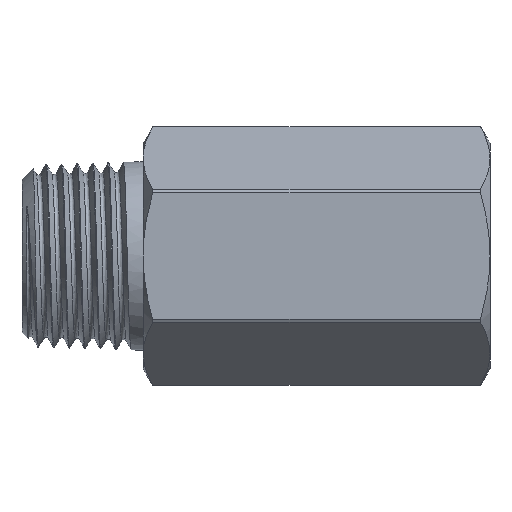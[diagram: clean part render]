
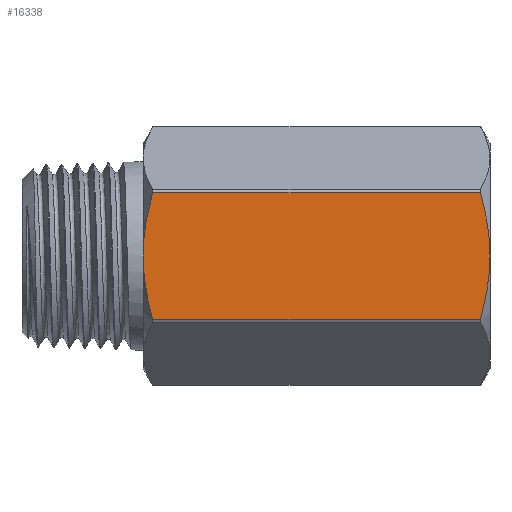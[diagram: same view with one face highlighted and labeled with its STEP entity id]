
A CAD part, front view. The second image highlights one B-rep face of the part: STEP entity #16338.
In plain terms, the highlighted planar face has unit normal (0, -1, 0).
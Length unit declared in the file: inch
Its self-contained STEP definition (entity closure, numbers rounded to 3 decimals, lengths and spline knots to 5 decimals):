
#101 = EDGE_CURVE ( 'NONE', #13688, #3862, #28055, .T. ) ;
#447 = CARTESIAN_POINT ( 'NONE',  ( -0.35827, -0.40354, 0. ) ) ;
#802 = CARTESIAN_POINT ( 'NONE',  ( 0.87261, -0.40354, -0.115 ) ) ;
#1036 = CARTESIAN_POINT ( 'NONE',  ( 0.87737, -0.40354, 0.08077 ) ) ;
#1106 = CARTESIAN_POINT ( 'NONE',  ( 0.8702, -0.40354, -0.12956 ) ) ;
#1248 = CARTESIAN_POINT ( 'NONE',  ( -0.35519, -0.40354, 0.07575 ) ) ;
#1398 = CARTESIAN_POINT ( 'NONE',  ( -0.34356, -0.40354, 0.14604 ) ) ;
#1865 = EDGE_CURVE ( 'NONE', #19623, #13688, #13687, .T. ) ;
#2915 = CARTESIAN_POINT ( 'NONE',  ( -0.34954, -0.40354, -0.11147 ) ) ;
#3105 = CARTESIAN_POINT ( 'NONE',  ( -0.34886, -0.40354, 0.11583 ) ) ;
#3125 = CARTESIAN_POINT ( 'NONE',  ( 0.86061, -0.40354, -0.17778 ) ) ;
#3731 = CARTESIAN_POINT ( 'NONE',  ( -0.34894, -0.40354, 0.11533 ) ) ;
#3834 = CARTESIAN_POINT ( 'NONE',  ( 0.87332, -0.40354, 0.11046 ) ) ;
#3862 = VERTEX_POINT ( 'NONE', #28468 ) ;
#5367 = VERTEX_POINT ( 'NONE', #10234 ) ;
#5546 = CARTESIAN_POINT ( 'NONE',  ( -0.35045, -0.40354, -0.10543 ) ) ;
#5600 = CARTESIAN_POINT ( 'NONE',  ( 0.84779, -0.40354, -0.22616 ) ) ;
#6032 = FACE_OUTER_BOUND ( 'NONE', #28463, .T. ) ;
#6198 = DIRECTION ( 'NONE',  ( 0., -1., 0. ) ) ;
#6576 = ORIENTED_EDGE ( 'NONE', *, *, #12946, .T. ) ;
#8102 = CARTESIAN_POINT ( 'NONE',  ( 0.87886, -0.40354, -0.0752 ) ) ;
#8196 = CARTESIAN_POINT ( 'NONE',  ( 0.88074, -0.40354, 0.04714 ) ) ;
#8239 = CARTESIAN_POINT ( 'NONE',  ( -0.32417, -0.40354, 0.22616 ) ) ;
#8303 = CARTESIAN_POINT ( 'NONE',  ( -0.32417, -0.40354, -0.22616 ) ) ;
#8344 = CARTESIAN_POINT ( 'NONE',  ( 0.87304, -0.40354, 0.11228 ) ) ;
#8653 = CARTESIAN_POINT ( 'NONE',  ( 0.87396, -0.40354, 0.1062 ) ) ;
#9266 = CARTESIAN_POINT ( 'NONE',  ( 0.84779, -0.40354, -0.22616 ) ) ;
#9558 = EDGE_CURVE ( 'NONE', #3862, #14030, #17601, .T. ) ;
#9896 = CARTESIAN_POINT ( 'NONE',  ( -0.34982, -0.40354, -0.10966 ) ) ;
#10071 = B_SPLINE_CURVE_WITH_KNOTS ( 'NONE', 3,
 ( #447, #12521, #19641, #29054, #17310, #5546, #9896, #2915, #22117, #19329, #29202, #26274, #10358 ),
 .UNSPECIFIED., .F., .F.,
 ( 4, 1, 1, 1, 1, 1, 2, 2, 4 ),
 ( 0., 0.25, 0.375, 0.4375, 0.46875, 0.48437, 0.49219, 0.5, 1. ),
 .UNSPECIFIED. ) ;
#10234 = CARTESIAN_POINT ( 'NONE',  ( -0.32417, -0.40354, 0.22616 ) ) ;
#10258 = CARTESIAN_POINT ( 'NONE',  ( 0.88189, -0.40354, -0.03724 ) ) ;
#10292 = B_SPLINE_CURVE_WITH_KNOTS ( 'NONE', 3,
 ( #8239, #17808, #26932, #1398, #19818, #10703, #29700, #24467, #3105, #3731, #1248, #10854, #29552 ),
 .UNSPECIFIED., .F., .F.,
 ( 4, 1, 1, 1, 1, 1, 2, 2, 4 ),
 ( 0., 0.25, 0.375, 0.4375, 0.46875, 0.48438, 0.49219, 0.5, 1. ),
 .UNSPECIFIED. ) ;
#10358 = CARTESIAN_POINT ( 'NONE',  ( -0.32417, -0.40354, -0.22616 ) ) ;
#10407 = CARTESIAN_POINT ( 'NONE',  ( 0.87244, -0.40354, -0.11611 ) ) ;
#10545 = CARTESIAN_POINT ( 'NONE',  ( -1.58602, -0.40354, 0.22616 ) ) ;
#10703 = CARTESIAN_POINT ( 'NONE',  ( -0.34778, -0.40354, 0.12248 ) ) ;
#10722 = CARTESIAN_POINT ( 'NONE',  ( 0.85333, -0.40354, -0.20654 ) ) ;
#10854 = CARTESIAN_POINT ( 'NONE',  ( -0.35827, -0.40354, 0.0375 ) ) ;
#11051 = ORIENTED_EDGE ( 'NONE', *, *, #1865, .T. ) ;
#12353 = CARTESIAN_POINT ( 'NONE',  ( -0.35827, -0.40354, 0. ) ) ;
#12521 = CARTESIAN_POINT ( 'NONE',  ( -0.35827, -0.40354, -0.01861 ) ) ;
#12569 = CARTESIAN_POINT ( 'NONE',  ( 0.8673, -0.40354, -0.14543 ) ) ;
#12683 = CARTESIAN_POINT ( 'NONE',  ( -1.58602, -0.40354, 0.22616 ) ) ;
#12845 = LINE ( 'NONE', #10545, #15939 ) ;
#12946 = EDGE_CURVE ( 'NONE', #27564, #19623, #10071, .T. ) ;
#12962 = CARTESIAN_POINT ( 'NONE',  ( 0.84779, -0.40354, 0.22616 ) ) ;
#13081 = AXIS2_PLACEMENT_3D ( 'NONE', #12683, #6198, #27208 ) ;
#13129 = CARTESIAN_POINT ( 'NONE',  ( 0.87275, -0.40354, 0.11417 ) ) ;
#13420 = ORIENTED_EDGE ( 'NONE', *, *, #22665, .F. ) ;
#13687 = LINE ( 'NONE', #23124, #22364 ) ;
#13688 = VERTEX_POINT ( 'NONE', #9266 ) ;
#14030 = VERTEX_POINT ( 'NONE', #16181 ) ;
#15132 = CARTESIAN_POINT ( 'NONE',  ( 0.88189, -0.40354, 0. ) ) ;
#15193 = CARTESIAN_POINT ( 'NONE',  ( 0.88189, -0.40354, 0. ) ) ;
#15939 = VECTOR ( 'NONE', #19980, 39.37008 ) ;
#16181 = CARTESIAN_POINT ( 'NONE',  ( 0.84779, -0.40354, 0.22616 ) ) ;
#16338 = ADVANCED_FACE ( 'NONE', ( #6032 ), #24910, .T. ) ;
#17310 = CARTESIAN_POINT ( 'NONE',  ( -0.35166, -0.40354, -0.097 ) ) ;
#17601 = B_SPLINE_CURVE_WITH_KNOTS ( 'NONE', 3,
 ( #15132, #24576, #8196, #1036, #17612, #8653, #3834, #8344, #17761, #13129, #22572, #18082, #12962 ),
 .UNSPECIFIED., .F., .F.,
 ( 4, 1, 1, 1, 1, 1, 2, 2, 4 ),
 ( 0., 0.25, 0.375, 0.4375, 0.46875, 0.48438, 0.49219, 0.5, 1. ),
 .UNSPECIFIED. ) ;
#17612 = CARTESIAN_POINT ( 'NONE',  ( 0.87518, -0.40354, 0.0977 ) ) ;
#17761 = CARTESIAN_POINT ( 'NONE',  ( 0.87285, -0.40354, 0.1135 ) ) ;
#17808 = CARTESIAN_POINT ( 'NONE',  ( -0.32967, -0.40354, 0.20669 ) ) ;
#18082 = CARTESIAN_POINT ( 'NONE',  ( 0.85879, -0.40354, 0.18719 ) ) ;
#18111 = ORIENTED_EDGE ( 'NONE', *, *, #23719, .T. ) ;
#18779 = DIRECTION ( 'NONE',  ( 1., 0., 0. ) ) ;
#19329 = CARTESIAN_POINT ( 'NONE',  ( -0.34925, -0.40354, -0.11333 ) ) ;
#19623 = VERTEX_POINT ( 'NONE', #8303 ) ;
#19641 = CARTESIAN_POINT ( 'NONE',  ( -0.35713, -0.40354, -0.04681 ) ) ;
#19818 = CARTESIAN_POINT ( 'NONE',  ( -0.34645, -0.40354, 0.13028 ) ) ;
#19980 = DIRECTION ( 'NONE',  ( 1., 0., 0. ) ) ;
#22117 = CARTESIAN_POINT ( 'NONE',  ( -0.34936, -0.40354, -0.11268 ) ) ;
#22364 = VECTOR ( 'NONE', #18779, 39.37008 ) ;
#22572 = CARTESIAN_POINT ( 'NONE',  ( 0.86708, -0.40354, 0.15005 ) ) ;
#22665 = EDGE_CURVE ( 'NONE', #5367, #14030, #12845, .T. ) ;
#23124 = CARTESIAN_POINT ( 'NONE',  ( -1.58602, -0.40354, -0.22616 ) ) ;
#23719 = EDGE_CURVE ( 'NONE', #5367, #27564, #10292, .T. ) ;
#24467 = CARTESIAN_POINT ( 'NONE',  ( -0.34868, -0.40354, 0.11693 ) ) ;
#24576 = CARTESIAN_POINT ( 'NONE',  ( 0.88189, -0.40354, 0.01875 ) ) ;
#24634 = CARTESIAN_POINT ( 'NONE',  ( 0.87217, -0.40354, -0.11779 ) ) ;
#24910 = PLANE ( 'NONE',  #13081 ) ;
#25208 = ORIENTED_EDGE ( 'NONE', *, *, #101, .T. ) ;
#26274 = CARTESIAN_POINT ( 'NONE',  ( -0.33526, -0.40354, -0.18689 ) ) ;
#26529 = ORIENTED_EDGE ( 'NONE', *, *, #9558, .T. ) ;
#26632 = CARTESIAN_POINT ( 'NONE',  ( 0.87153, -0.40354, -0.1217 ) ) ;
#26932 = CARTESIAN_POINT ( 'NONE',  ( -0.3369, -0.40354, 0.17815 ) ) ;
#27208 = DIRECTION ( 'NONE',  ( 0., 0., -1. ) ) ;
#27564 = VERTEX_POINT ( 'NONE', #12353 ) ;
#28055 = B_SPLINE_CURVE_WITH_KNOTS ( 'NONE', 3,
 ( #5600, #10722, #3125, #12569, #1106, #26632, #24634, #10407, #802, #29101, #8102, #10258, #15193 ),
 .UNSPECIFIED., .F., .F.,
 ( 4, 1, 1, 1, 1, 1, 2, 2, 4 ),
 ( 0., 0.25, 0.375, 0.4375, 0.46875, 0.48437, 0.49219, 0.5, 1. ),
 .UNSPECIFIED. ) ;
#28463 = EDGE_LOOP ( 'NONE', ( #13420, #18111, #6576, #11051, #25208, #26529 ) ) ;
#28468 = CARTESIAN_POINT ( 'NONE',  ( 0.88189, -0.40354, 0. ) ) ;
#29054 = CARTESIAN_POINT ( 'NONE',  ( -0.35381, -0.40354, -0.08019 ) ) ;
#29101 = CARTESIAN_POINT ( 'NONE',  ( 0.87269, -0.40354, -0.11449 ) ) ;
#29202 = CARTESIAN_POINT ( 'NONE',  ( -0.34359, -0.40354, -0.14947 ) ) ;
#29552 = CARTESIAN_POINT ( 'NONE',  ( -0.35827, -0.40354, 0. ) ) ;
#29700 = CARTESIAN_POINT ( 'NONE',  ( -0.34842, -0.40354, 0.11859 ) ) ;
